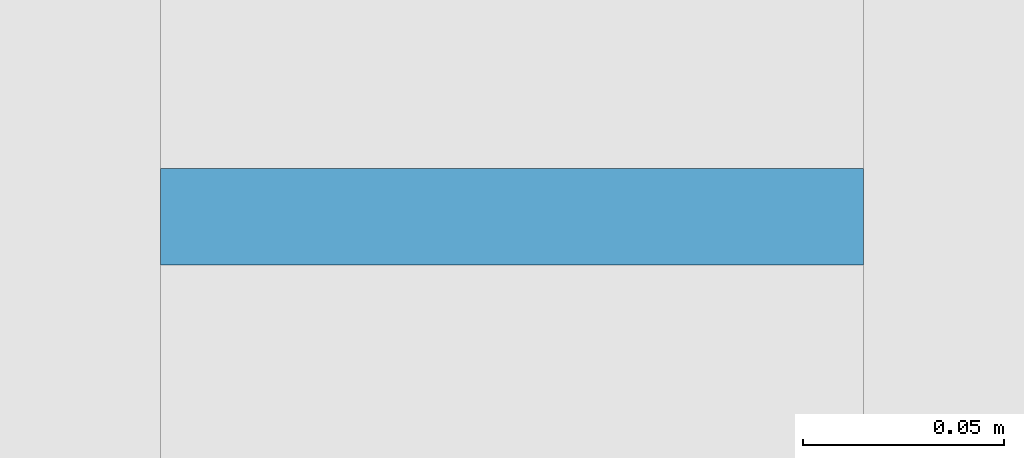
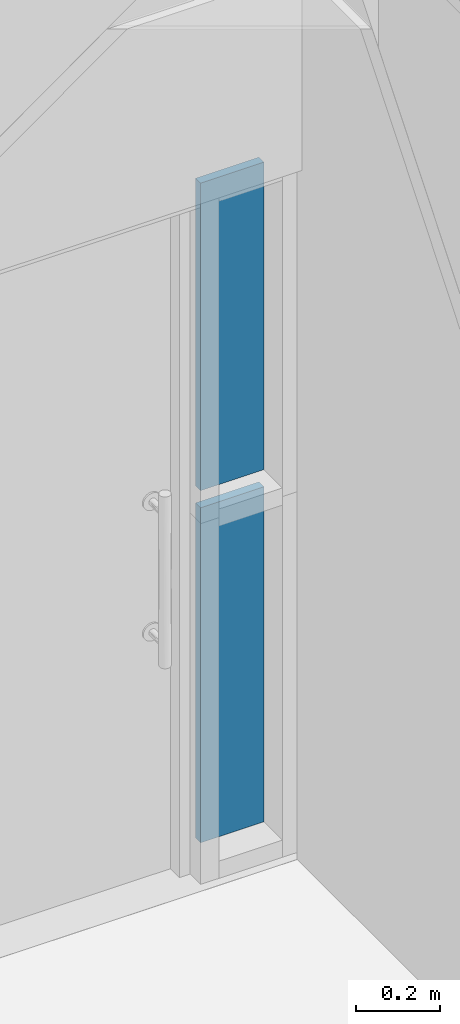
# One storey, part 41 of 76: 2 plates, 1 element without a shape of its own.
"""IFC2X3 building model written with IfcOpenShell, lengths in millimetres."""

from ifc_helpers import new_model, entity, si_unit, converted_unit, derived_unit, direction, frame, origin, origin_2d_with_axis, place, context, subcontext, project, spatial, rectangle, extrude, source, transform, mapped, material, type_object, type_shapes, element, aggregate, save


model = new_model("IFC2X3")

# Units and contexts
model_context = context("Model", 3, precision=0.01, world=origin(), true_north=direction((6.123031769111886e-17, 1.0)))
body_context = subcontext(model_context, "Body", "Model", "MODEL_VIEW")
ifc_project = project(units=[si_unit("LENGTHUNIT", "METRE", prefix="MILLI"), si_unit("AREAUNIT", "SQUARE_METRE"), si_unit("VOLUMEUNIT", "CUBIC_METRE"), converted_unit("PLANEANGLEUNIT", "DEGREE", entity("IfcRatioMeasure", 0.017453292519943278), si_unit("PLANEANGLEUNIT", "RADIAN"), dimensions=[0, 0, 0, 0, 0, 0, 0]), si_unit("MASSUNIT", "GRAM", prefix="KILO"), derived_unit("MASSDENSITYUNIT", [(si_unit("MASSUNIT", "GRAM", prefix="KILO"), 1), (si_unit("LENGTHUNIT", "METRE"), -3)]), derived_unit("MOMENTOFINERTIAUNIT", [(si_unit("LENGTHUNIT", "METRE"), 4)]), si_unit("TIMEUNIT", "SECOND"), si_unit("FREQUENCYUNIT", "HERTZ"), si_unit("THERMODYNAMICTEMPERATUREUNIT", "DEGREE_CELSIUS"), derived_unit("THERMALTRANSMITTANCEUNIT", [(si_unit("MASSUNIT", "GRAM", prefix="KILO"), 1), (si_unit("THERMODYNAMICTEMPERATUREUNIT", "KELVIN"), -1), (si_unit("TIMEUNIT", "SECOND"), -3)]), derived_unit("VOLUMETRICFLOWRATEUNIT", [(si_unit("LENGTHUNIT", "METRE"), 3), (si_unit("TIMEUNIT", "SECOND"), -1)]), derived_unit("MASSFLOWRATEUNIT", [(si_unit("MASSUNIT", "GRAM", prefix="KILO"), 1), (si_unit("TIMEUNIT", "SECOND"), -1)]), derived_unit("ROTATIONALFREQUENCYUNIT", [(si_unit("TIMEUNIT", "SECOND"), -1)]), si_unit("ELECTRICCURRENTUNIT", "AMPERE"), si_unit("ELECTRICVOLTAGEUNIT", "VOLT"), si_unit("POWERUNIT", "WATT"), si_unit("FORCEUNIT", "NEWTON", prefix="KILO"), si_unit("ILLUMINANCEUNIT", "LUX"), si_unit("LUMINOUSFLUXUNIT", "LUMEN"), si_unit("LUMINOUSINTENSITYUNIT", "CANDELA"), derived_unit("USERDEFINED", [(si_unit("MASSUNIT", "GRAM", prefix="KILO"), -1), (si_unit("LENGTHUNIT", "METRE"), -2), (si_unit("TIMEUNIT", "SECOND"), 3), (si_unit("LUMINOUSFLUXUNIT", "LUMEN"), 1)]), derived_unit("SOUNDPOWERUNIT", [(si_unit("MASSUNIT", "GRAM", prefix="KILO"), 1), (si_unit("LENGTHUNIT", "METRE"), 2), (si_unit("TIMEUNIT", "SECOND"), -3)]), derived_unit("SOUNDPRESSUREUNIT", [(si_unit("MASSUNIT", "GRAM", prefix="KILO"), 1), (si_unit("LENGTHUNIT", "METRE"), -1), (si_unit("TIMEUNIT", "SECOND"), -2)]), derived_unit("LINEARVELOCITYUNIT", [(si_unit("LENGTHUNIT", "METRE"), 1), (si_unit("TIMEUNIT", "SECOND"), -1)]), si_unit("PRESSUREUNIT", "PASCAL"), derived_unit("USERDEFINED", [(si_unit("LENGTHUNIT", "METRE"), -2), (si_unit("MASSUNIT", "GRAM", prefix="KILO"), 1), (si_unit("TIMEUNIT", "SECOND"), -2)]), derived_unit("LINEARFORCEUNIT", [(si_unit("MASSUNIT", "GRAM", prefix="KILO"), 1), (si_unit("LENGTHUNIT", "METRE"), 1), (si_unit("TIMEUNIT", "SECOND"), -2), (si_unit("LENGTHUNIT", "METRE"), -1)]), derived_unit("PLANARFORCEUNIT", [(si_unit("MASSUNIT", "GRAM", prefix="KILO"), 1), (si_unit("LENGTHUNIT", "METRE"), 1), (si_unit("TIMEUNIT", "SECOND"), -2), (si_unit("LENGTHUNIT", "METRE"), -2)])], contexts=[model_context])

# Site, building, storey
site_placement = place(None, frame((-14167.972527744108, -657.2125860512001, 0.0)))
site = spatial("IfcSite", under=ifc_project, at=site_placement, Name="Default", CompositionType="ELEMENT")
building_placement = place(site_placement, origin())
building = spatial("IfcBuilding", under=site, at=building_placement, Name="Sample Building", CompositionType="ELEMENT")
storey_placement = place(building_placement, frame((0.0, 0.0, 9300.0)))
storey = spatial("IfcBuildingStorey", under=building, at=storey_placement, Name="지상 3층", CompositionType="ELEMENT", Elevation=9300.000000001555)

# Curtain wall, plates
curtain_wall_type = type_object("IfcCurtainWallType", Name="커튼월:CW112-스테인리스 스틸 커튼월", PredefinedType="NOTDEFINED")
curtain_wall_placement = place(storey_placement, frame((0.0, 0.0, -9300.0)))
curtain_wall = element("IfcCurtainWall", 1, at=curtain_wall_placement, inside=storey, type_object=curtain_wall_type, Name="커튼월:CW112-스테인리스 스틸 커튼월", ObjectType="커튼월:CW112-스테인리스 스틸 커튼월")
ifc_material = material(Name="KBIMS-로이유리(코팅)")
plate_type_1 = type_object("IfcPlateType", Name="CW300-THK24.Low-e coating glass:CW300-THK24.Low-e coating glass", PredefinedType="CURTAIN_PANEL", material=ifc_material)
shared_shape_1 = source(origin(), body_context, "Body", "SweptSolid", [
    extrude(rectangle(XDim=175.00000000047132, YDim=24.000000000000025, at=origin_2d_with_axis()), frame((0.0, 0.0, 0.0), z_axis=(0.0, 0.0, 1.0), x_axis=(-1.0, 0.0, 0.0)), (0.0, 0.0, 1.0), 975.0000000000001),
])
type_shapes(plate_type_1, [shared_shape_1])
plate_1_placement = place(curtain_wall_placement, frame((37830.463798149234, 26982.21229514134, 9430.0)))
plate_1 = element("IfcPlate", 2, at=plate_1_placement, type_object=plate_type_1, material=ifc_material, Name="CW300-THK24.Low-e coating glass:CW300-THK24.Low-e coating glass", ObjectType="CW300-THK24.Low-e coating glass:CW300-THK24.Low-e coating glass", context=body_context, shape_type="MappedRepresentation", body=[
    mapped(shared_shape_1, transform((0.0, 0.0, 0.0), scale=1.0)),
])
plate_type_2 = type_object("IfcPlateType", Name="CW300-THK24.Low-e coating glass:CW300-THK24.Low-e coating glass", PredefinedType="CURTAIN_PANEL", material=ifc_material)
shared_shape_2 = source(origin(), body_context, "Body", "SweptSolid", [
    extrude(rectangle(XDim=175.00000000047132, YDim=24.000000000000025, at=origin_2d_with_axis()), frame((0.0, 0.0, 0.0), z_axis=(0.0, 0.0, 1.0), x_axis=(-1.0, 0.0, 0.0)), (0.0, 0.0, 1.0), 895.0000000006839),
])
type_shapes(plate_type_2, [shared_shape_2])
plate_2_placement = place(curtain_wall_placement, frame((37830.463798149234, 26982.21229514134, 10455.0)))
plate_2 = element("IfcPlate", 3, at=plate_2_placement, type_object=plate_type_2, material=ifc_material, Name="CW300-THK24.Low-e coating glass:CW300-THK24.Low-e coating glass", ObjectType="CW300-THK24.Low-e coating glass:CW300-THK24.Low-e coating glass", context=body_context, shape_type="MappedRepresentation", body=[
    mapped(shared_shape_2, transform((0.0, 0.0, 0.0), scale=1.0)),
])
aggregate(curtain_wall, [plate_1, plate_2])

save(model, "model.ifc")
